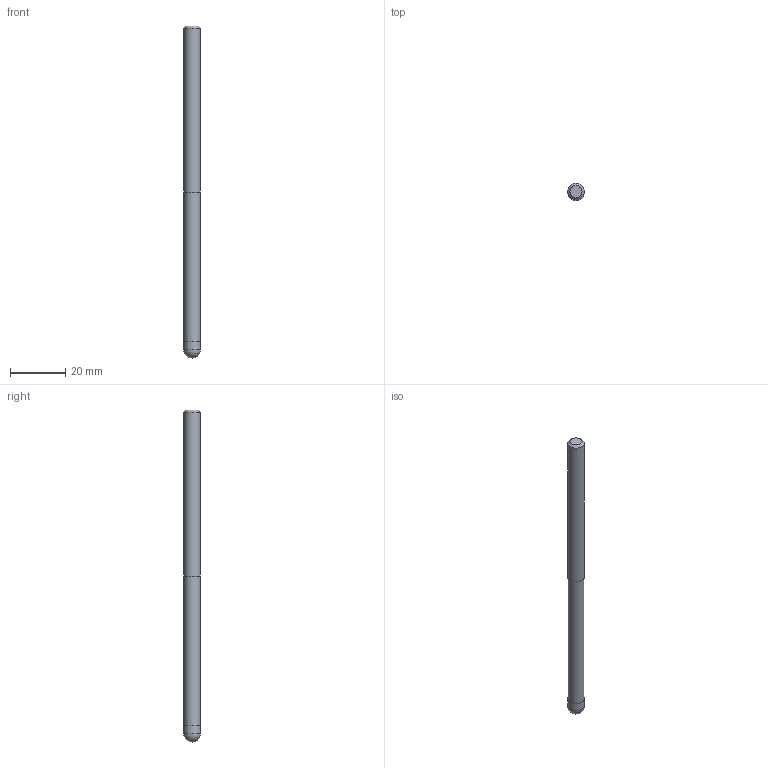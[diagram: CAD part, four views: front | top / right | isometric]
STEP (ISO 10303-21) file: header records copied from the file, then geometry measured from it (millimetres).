
FILE_DESCRIPTION((''),'2;1');
FILE_NAME('C:\Users\nsx150\AppData\Local\Temp\Mastercam 2021\EUJSUNXURU\TEMP.step','2021-04-22T10:26:42',(''),(''),'STEP Write','Mastercam 2021 ... CNC Software, Inc.','');
FILE_SCHEMA(('AUTOMOTIVE_DESIGN'));
Length unit declared in the file: millimetre
Products named in the file (1): None
Bounding box: 6 x 6 x 120 mm (x, y, z)
Volume: 3259.1 mm3; surface area: 2303.2 mm2
Topology: 2 solids, 2 shells, 9 faces, 13 edges, 8 vertices
Faces by surface type: plane 4, cylinder 3, sphere 1, cone 1
Full cylindrical faces by diameter (mm): 5.8 x1, 6 x2
Entity records: 211 total; most frequent: DIRECTION 36, CARTESIAN_POINT 25, AXIS2_PLACEMENT_3D 18, ORIENTED_EDGE 14, EDGE_LOOP 14, STYLED_ITEM 12, ADVANCED_FACE 9, FACE_BOUND 8
